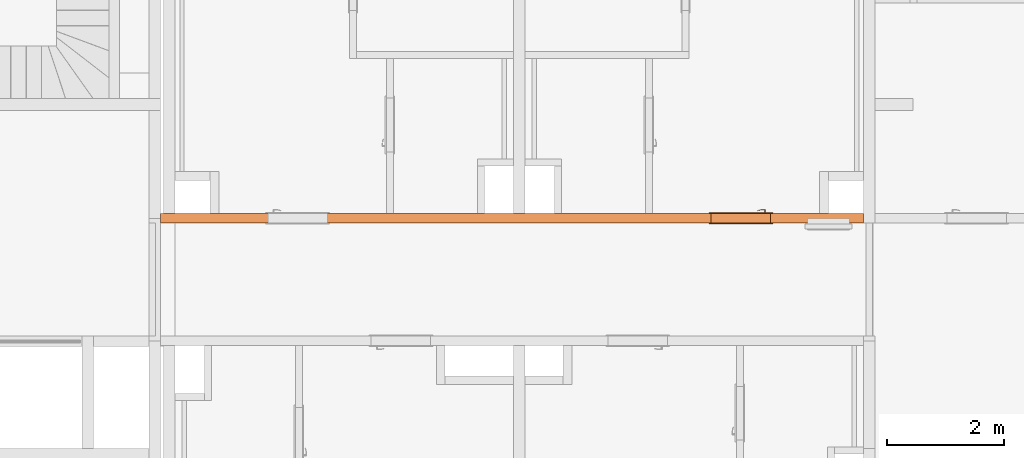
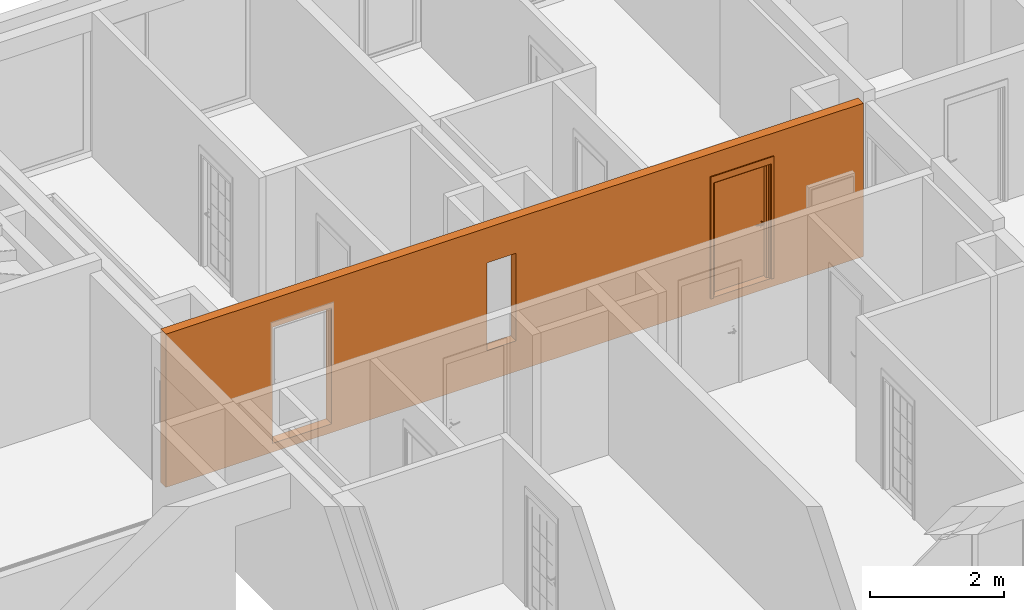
# One storey, part 19 of 61: 2 proxies, 3 openings.
"""IFC2X3 building model written with IfcOpenShell, lengths in millimetres."""

from ifc_helpers import new_model, entity, si_unit, converted_unit, derived_unit, money_unit, direction, frame, origin_with_axes, origin_2d_with_axis, place, context, subcontext, project, spatial, rectangle, extrude, open_shell, faceted_brep, surface_model, source, transform, mapped, material, type_object, element, fill, save


model = new_model("IFC2X3")

# Units and contexts
model_context = context("Model", 3, precision=0.01, world=origin_with_axes(), true_north=direction((0.34421633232, 0.938890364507)))
body_context = subcontext(model_context, "Body", "Model", "MODEL_VIEW")
ifc_project = project(units=[si_unit("LENGTHUNIT", "METRE", prefix="MILLI"), si_unit("AREAUNIT", "SQUARE_METRE"), si_unit("VOLUMEUNIT", "CUBIC_METRE"), converted_unit("PLANEANGLEUNIT", "DEGREE", entity("IfcPlaneAngleMeasure", 0.0174532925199), si_unit("PLANEANGLEUNIT", "RADIAN"), dimensions=[0, 0, 0, 0, 0, 0, 0]), si_unit("SOLIDANGLEUNIT", "STERADIAN"), money_unit("USD"), converted_unit("TIMEUNIT", "Year", entity("IfcTimeMeasure", 31556926.0), si_unit("TIMEUNIT", "SECOND"), dimensions=[0, 0, 1, 0, 0, 0, 0]), si_unit("MASSUNIT", "GRAM", prefix="KILO"), si_unit("THERMODYNAMICTEMPERATUREUNIT", "DEGREE_CELSIUS"), si_unit("LUMINOUSINTENSITYUNIT", "LUMEN"), si_unit("ENERGYUNIT", "JOULE", prefix="MEGA"), derived_unit("THERMALCONDUCTANCEUNIT", [(si_unit("POWERUNIT", "WATT"), 1), (si_unit("LENGTHUNIT", "METRE"), -1), (si_unit("THERMODYNAMICTEMPERATUREUNIT", "KELVIN"), -1)]), derived_unit("SPECIFICHEATCAPACITYUNIT", [(si_unit("ENERGYUNIT", "JOULE"), 1), (si_unit("MASSUNIT", "GRAM", prefix="KILO"), -1), (si_unit("THERMODYNAMICTEMPERATUREUNIT", "KELVIN"), -1)]), derived_unit("MASSDENSITYUNIT", [(si_unit("MASSUNIT", "GRAM", prefix="KILO"), 1), (si_unit("VOLUMEUNIT", "CUBIC_METRE"), -1)])], contexts=[model_context])

# Site, building, storey
site_placement = place(None, origin_with_axes())
site = spatial("IfcSite", under=ifc_project, at=site_placement, Name="USTRONIE MORSKIE", CompositionType="ELEMENT")
building_placement = place(site_placement, origin_with_axes())
building = spatial("IfcBuilding", under=site, at=building_placement, Name="Budynek", CompositionType="ELEMENT")
storey_placement = place(building_placement, frame((0.0, 0.0, 13000.0), z_axis=(0.0, 0.0, 1.0), x_axis=(1.0, 0.0, 0.0)))
storey = spatial("IfcBuildingStorey", under=building, at=storey_placement, Name="PIĘTRO 4", CompositionType="ELEMENT", Elevation=13000.0)

# Proxies, openings
ifc_material = material(Name="Beton konstrukcyjny B25")
building_element_proxy_type_1 = type_object("IfcBuildingElementProxyType", Name="Beton konstrukcyjny B25 160", PredefinedType="NOTDEFINED")
proxy_1_placement = place(storey_placement, frame((367067.920919, 736851.199036, -160.0), z_axis=(0.0, 0.0, 1.0), x_axis=(1.0, 0.0, 0.0)))
proxy_1 = element("IfcBuildingElementProxy", 1, at=proxy_1_placement, inside=storey, type_object=building_element_proxy_type_1, material=ifc_material, Name="SW-01", context=body_context, shape_type="Brep", body=[
    faceted_brep([(100.000137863, 80.0, 0.0), (100.000137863, 80.0, 2800.0), (5270.0, 80.0, 2800.00000171), (7230.0, 80.0, 2800.00000171), (11550.0169799, 79.9984160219, 2800.0), (12150.0, 79.9984160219, 2800.0), (12150.0, 80.0, 0.0), (100.000139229, 0.0, 0.0), (100.000139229, 0.0, 2800.0), (100.000139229, -80.0, 2800.0), (5270.0, -80.0, 2800.00000171), (7230.0, -80.0, 2800.00000171), (12150.0, -80.0, 2800.0), (12150.0, -80.0, 0.0), (100.000139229, -80.0, 0.0)], [[[0, 1, 2, 3, 4, 5, 6]], [[7, 8, 1, 0]], [[5, 4, 3, 2, 1, 8, 9, 10, 11, 12]], [[6, 5, 12, 13]], [[13, 14, 7, 0, 6]], [[14, 9, 8, 7]], [[10, 9, 14, 13, 12, 11]]]),
])
opening_1_placement = place(proxy_1_placement, frame((10049.9840947, 0.0, 160.0), z_axis=(0.0, 0.0, 1.0), x_axis=(1.0, 0.0, 0.0)))
opening_1 = element("IfcOpeningElement", 2, at=opening_1_placement, cuts=proxy_1, Name="Dw.1", context=body_context, shape_type="SweptSolid", body=[
    extrude(rectangle(XDim=1020.0, YDim=2120.0, at=origin_2d_with_axis()), frame((0.0, -160.0, 1060.0), z_axis=(0.0, -1.0, 0.0), x_axis=(-1.0, 0.0, 0.0)), (0.0, 0.0, -1.0), 480.0),
    extrude(rectangle(XDim=1094.0, YDim=2227.0, at=origin_2d_with_axis()), frame((0.0, -80.0, 1113.5), z_axis=(0.0, -1.0, 0.0), x_axis=(-1.0, 0.0, 0.0)), (0.0, 0.0, 1.0), 160.0),
    extrude(rectangle(XDim=1094.0, YDim=2227.0, at=origin_2d_with_axis()), frame((0.0, 79.9999999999, 1113.5), z_axis=(0.0, 1.0, 0.0), x_axis=(-1.0, 0.0, 0.0)), (0.0, 0.0, 1.0), 160.0),
])
opening_2_placement = place(proxy_1_placement, frame((2450.01590535, 0.0, 160.0), z_axis=(0.0, 0.0, 1.0), x_axis=(1.0, 0.0, 0.0)))
element("IfcOpeningElement", 3, at=opening_2_placement, cuts=proxy_1, Name="Dw.1", context=body_context, shape_type="SweptSolid", body=[
    extrude(rectangle(XDim=1020.0, YDim=2120.0, at=origin_2d_with_axis()), frame((0.0, -160.0, 1060.0), z_axis=(0.0, 1.0, 0.0), x_axis=(1.0, 0.0, 0.0)), (0.0, 0.0, 1.0), 480.0),
    extrude(rectangle(XDim=1094.0, YDim=2227.0, at=origin_2d_with_axis()), frame((0.0, -80.0, 1113.5), z_axis=(0.0, 1.0, 0.0), x_axis=(1.0, 0.0, 0.0)), (0.0, 0.0, -1.0), 160.0),
    extrude(rectangle(XDim=1094.0, YDim=2227.0, at=origin_2d_with_axis()), frame((0.0, 79.9999999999, 1113.5), z_axis=(0.0, -1.0, 0.0), x_axis=(1.0, 0.0, 0.0)), (0.0, 0.0, -1.0), 160.0),
])
opening_3_placement = place(proxy_1_placement, frame((5900.0, 0.0, 560.0), z_axis=(0.0, 0.0, 1.0), x_axis=(1.0, 0.0, 0.0)))
element("IfcOpeningElement", 4, at=opening_3_placement, cuts=proxy_1, Name="R.01", context=body_context, shape_type="SweptSolid", body=[
    extrude(rectangle(XDim=500.0, YDim=1600.0, at=origin_2d_with_axis()), frame((0.0, -80.0, 800.0), z_axis=(0.0, 1.0, 0.0), x_axis=(1.0, 0.0, 0.0)), (0.0, 0.0, -1.0), 160.0),
    extrude(rectangle(XDim=500.0, YDim=1600.0, at=origin_2d_with_axis()), frame((0.0, -80.0, 800.0), z_axis=(0.0, -1.0, 0.0), x_axis=(1.0, 0.0, 0.0)), (0.0, 0.0, -1.0), 160.0),
])
building_element_proxy_type_2 = type_object("IfcBuildingElementProxyType", Name="Drzwi 23", PredefinedType="NOTDEFINED")
shared_shape = source(origin_with_axes(), body_context, "Body", "SurfaceModel", [
    faceted_brep([(510.0, -115.0, 0.0), (510.0, -160.0, 0.0), (485.0, -160.0, 0.0), (485.0, -115.0, 0.0), (510.0, -115.0, 2120.0), (510.0, -160.0, 2120.0), (485.0, -160.0, 2095.0), (485.0, -115.0, 2095.0)], [[[0, 1, 2, 3]], [[4, 5, 1, 0]], [[1, 5, 6, 2]], [[3, 2, 6, 7]], [[0, 3, 7, 4]], [[7, 6, 5, 4]]]),
    faceted_brep([(-510.0, -115.0, 2120.0), (-510.0, -160.0, 2120.0), (-485.0, -160.0, 2095.0), (-485.0, -115.0, 2095.0), (-510.0, -115.0, 0.0), (-510.0, -160.0, 0.0), (-485.0, -160.0, 0.0), (-485.0, -115.0, 0.0)], [[[0, 1, 2, 3]], [[4, 5, 1, 0]], [[1, 5, 6, 2]], [[3, 2, 6, 7]], [[0, 3, 7, 4]], [[7, 6, 5, 4]]]),
    faceted_brep([(485.0, -115.0, 2095.0), (485.0, -160.0, 2095.0), (-485.0, -160.0, 2095.0), (-485.0, -115.0, 2095.0), (510.0, -115.0, 2120.0), (510.0, -160.0, 2120.0), (-510.0, -160.0, 2120.0), (-510.0, -115.0, 2120.0)], [[[0, 1, 2, 3]], [[4, 5, 1, 0]], [[1, 5, 6, 2]], [[3, 2, 6, 7]], [[0, 3, 7, 4]], [[7, 6, 5, 4]]]),
    faceted_brep([(547.0, -179.0, 0.0), (497.0, -179.0, 0.0), (497.0, -160.0, 0.0), (547.0, -160.0, 0.0), (547.0, -179.0, 2227.0), (497.0, -179.0, 2107.0), (497.0, -160.0, 2107.0), (547.0, -160.0, 2227.0)], [[[0, 1, 2, 3]], [[0, 4, 5, 1]], [[1, 5, 6, 2]], [[3, 2, 6, 7]], [[4, 0, 3, 7]], [[5, 4, 7, 6]]]),
    faceted_brep([(-547.0, -179.0, 2227.0), (-497.0, -179.0, 2107.0), (-497.0, -160.0, 2107.0), (-547.0, -160.0, 2227.0), (-547.0, -179.0, 0.0), (-497.0, -179.0, 0.0), (-497.0, -160.0, 0.0), (-547.0, -160.0, 0.0)], [[[0, 1, 2, 3]], [[0, 4, 5, 1]], [[1, 5, 6, 2]], [[3, 2, 6, 7]], [[4, 0, 3, 7]], [[5, 4, 7, 6]]]),
    faceted_brep([(547.0, -179.0, 2227.0), (497.0, -179.0, 2107.0), (497.0, -160.0, 2107.0), (547.0, -160.0, 2227.0), (-547.0, -179.0, 2227.0), (-497.0, -179.0, 2107.0), (-497.0, -160.0, 2107.0), (-547.0, -160.0, 2227.0)], [[[0, 1, 2, 3]], [[0, 4, 5, 1]], [[1, 5, 6, 2]], [[3, 2, 6, 7]], [[4, 0, 3, 7]], [[5, 4, 7, 6]]]),
    faceted_brep([(547.0, 19.0, 0.0), (547.0, 0.0, 0.0), (497.0, 0.0, 0.0), (497.0, 19.0, 0.0), (547.0, 19.0, 2227.0), (547.0, 0.0, 2227.0), (497.0, 0.0, 2107.0), (497.0, 19.0, 2107.0)], [[[0, 1, 2, 3]], [[4, 5, 1, 0]], [[1, 5, 6, 2]], [[3, 2, 6, 7]], [[0, 3, 7, 4]], [[7, 6, 5, 4]]]),
    faceted_brep([(-547.0, 19.0, 2227.0), (-547.0, 0.0, 2227.0), (-497.0, 0.0, 2107.0), (-497.0, 19.0, 2107.0), (-547.0, 19.0, 0.0), (-547.0, 0.0, 0.0), (-497.0, 0.0, 0.0), (-497.0, 19.0, 0.0)], [[[0, 1, 2, 3]], [[4, 5, 1, 0]], [[1, 5, 6, 2]], [[3, 2, 6, 7]], [[0, 3, 7, 4]], [[7, 6, 5, 4]]]),
    faceted_brep([(547.0, 19.0, 2227.0), (547.0, 0.0, 2227.0), (497.0, 0.0, 2107.0), (497.0, 19.0, 2107.0), (-547.0, 19.0, 2227.0), (-547.0, 0.0, 2227.0), (-497.0, 0.0, 2107.0), (-497.0, 19.0, 2107.0)], [[[0, 1, 2, 3]], [[4, 5, 1, 0]], [[1, 5, 6, 2]], [[3, 2, 6, 7]], [[0, 3, 7, 4]], [[7, 6, 5, 4]]]),
    faceted_brep([(450.0, -40.0, 0.0), (450.0, -115.0, 0.0), (450.0, -115.0, 2050.0), (450.0, -40.0, 2050.0), (462.0, -40.0, 0.0), (462.0, 0.0, 0.0), (510.0, 0.0, 0.0), (510.0, -115.0, 0.0), (510.0, -115.0, 2050.0), (462.0, -40.0, 2050.0), (510.0, 0.0, 2050.0), (462.0, 0.0, 2050.0)], [[[0, 1, 2, 3]], [[4, 5, 6, 7, 1, 0]], [[1, 7, 8, 2]], [[9, 3, 2, 8, 10, 11]], [[9, 4, 0, 3]], [[11, 5, 4, 9]], [[11, 10, 6, 5]], [[6, 10, 8, 7]]]),
    faceted_brep([(-462.0, -40.0, 2050.0), (-462.0, 0.0, 2050.0), (-510.0, 0.0, 2050.0), (-510.0, -115.0, 2050.0), (-450.0, -115.0, 2050.0), (-450.0, -40.0, 2050.0), (-462.0, -40.0, 0.0), (-462.0, 0.0, 0.0), (-510.0, 0.0, 0.0), (-510.0, -115.0, 0.0), (-450.0, -115.0, 0.0), (-450.0, -40.0, 0.0)], [[[0, 1, 2, 3, 4, 5]], [[0, 6, 7, 1]], [[7, 8, 2, 1]], [[2, 8, 9, 3]], [[3, 9, 10, 4]], [[5, 4, 10, 11]], [[5, 11, 6, 0]], [[6, 11, 10, 9, 8, 7]]]),
    faceted_brep([(462.0, 0.0, 2062.0), (-462.0, 0.0, 2062.0), (-462.0, 0.0, 2050.0), (-510.0, 0.0, 2050.0), (-510.0, 0.0, 2120.0), (510.0, 0.0, 2120.0), (510.0, 0.0, 2050.0), (462.0, 0.0, 2050.0), (462.0, -40.0, 2062.0), (-462.0, -40.0, 2062.0), (-462.0, -40.0, 2050.0), (-450.0, -40.0, 2050.0), (-450.0, -115.0, 2050.0), (-510.0, -115.0, 2050.0), (-510.0, -115.0, 2120.0), (510.0, -115.0, 2120.0), (510.0, -115.0, 2050.0), (462.0, -40.0, 2050.0), (450.0, -115.0, 2050.0), (450.0, -40.0, 2050.0)], [[[0, 1, 2, 3, 4, 5, 6, 7]], [[0, 8, 9, 1]], [[1, 9, 10, 2]], [[10, 11, 12, 13, 3, 2]], [[4, 3, 13, 14]], [[5, 4, 14, 15]], [[6, 5, 15, 16]], [[17, 7, 6, 16, 18, 19]], [[7, 17, 8, 0]], [[10, 9, 8, 17, 19, 11]], [[19, 18, 12, 11]], [[12, 18, 16, 15, 14, 13]]]),
    faceted_brep([(440.5, -40.0, 1060.0), (383.5, -40.0, 1060.0), (383.5, -43.0, 1060.0), (440.5, -43.0, 1060.0), (440.5, -40.0, 870.0), (383.5, -40.0, 870.0), (383.5, -43.0, 870.0), (440.5, -43.0, 870.0)], [[[0, 1, 2, 3]], [[0, 4, 5, 1]], [[1, 5, 6, 2]], [[3, 2, 6, 7]], [[4, 0, 3, 7]], [[5, 4, 7, 6]]]),
    faceted_brep([(412.0, -104.0, 990.0), (417.0, -104.0, 991.339745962), (417.0, -111.0, 991.339745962), (412.0, -111.0, 990.0), (387.0, -104.0, 990.0), (387.0, -104.0, 1010.0), (412.0, -104.0, 1010.0), (417.0, -104.0, 1008.66025404), (420.660254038, -104.0, 1005.0), (422.0, -104.0, 1000.0), (420.660254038, -104.0, 995.0), (420.660254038, -111.0, 995.0), (422.0, -111.0, 1000.0), (420.660254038, -111.0, 1005.0), (417.0, -111.0, 1008.66025404), (412.0, -111.0, 1010.0), (387.0, -111.0, 1010.0), (387.0, -111.0, 990.0)], [[[0, 1, 2, 3]], [[0, 4, 5, 6, 7, 8, 9, 10, 1]], [[1, 10, 11, 2]], [[3, 2, 11, 12, 13, 14, 15, 16, 17]], [[4, 0, 3, 17]], [[5, 4, 17, 16]], [[6, 5, 16, 15]], [[7, 6, 15, 14]], [[8, 7, 14, 13]], [[9, 8, 13, 12]], [[10, 9, 12, 11]]]),
    surface_model("IfcShellBasedSurfaceModel", [(387.0, -104.0, 1010.0), (373.901717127, -104.0, 1009.60730092), (373.596090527, -111.0, 1009.60730092), (387.0, -104.0, 990.0), (373.901717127, -104.0, 990.392699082), (346.890283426, -108.663544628, 1008.82190275), (387.0, -111.0, 1010.0), (387.0, -111.0, 990.0), (347.804837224, -101.716818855, 991.178097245), (347.804837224, -101.716818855, 1008.82190275), (346.890283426, -108.663544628, 991.178097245), (373.596090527, -111.0, 990.392699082), (322.006256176, -97.1678329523, 991.963495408), (322.006256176, -97.1678329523, 1008.03650459), (320.489735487, -104.008415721, 1008.03650459), (320.489735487, -104.008415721, 991.963495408), (296.702316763, -90.3876628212, 992.748893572), (296.702316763, -90.3876628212, 1007.25110643), (294.59537082, -97.0700416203, 1007.25110643), (294.59537082, -97.0700416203, 992.748893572), (288.829442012, -87.5221707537, 993.0), (288.829442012, -87.5221707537, 1007.0), (286.538795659, -94.1376880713, 1007.0), (286.538795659, -94.1376880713, 993.0)], [open_shell([[[0, 1, 2]], [[0, 3, 4, 1]], [[1, 5, 2]], [[0, 2, 6]], [[4, 3, 7]], [[1, 4, 8, 9]], [[1, 9, 5]], [[2, 5, 10, 11]], [[6, 2, 11, 7]], [[4, 7, 11]], [[8, 4, 11]], [[9, 8, 12, 13]], [[9, 14, 5]], [[5, 14, 15, 10]], [[8, 11, 10]], [[12, 8, 10]], [[13, 12, 16, 17]], [[9, 13, 14]], [[14, 18, 19, 15]], [[12, 10, 15]], [[16, 12, 15]], [[17, 16, 20, 21]], [[13, 17, 18]], [[13, 18, 14]], [[18, 22, 23, 19]], [[16, 15, 19]], [[20, 16, 19]], [[21, 20, 23, 22]], [[17, 21, 22]], [[17, 22, 18]], [[20, 19, 23]]])]),
    faceted_brep([(401.607695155, -53.0, 994.0), (400.0, -53.0, 1000.0), (399.0, -43.0, 1000.0), (400.741669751, -43.0, 993.5), (406.0, -53.0, 989.607695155), (412.0, -53.0, 988.0), (418.0, -53.0, 989.607695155), (422.392304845, -53.0, 994.0), (424.0, -53.0, 1000.0), (422.392304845, -53.0, 1006.0), (418.0, -53.0, 1010.39230485), (412.0, -53.0, 1012.0), (406.0, -53.0, 1010.39230485), (401.607695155, -53.0, 1006.0), (400.741669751, -43.0, 1006.5), (405.5, -43.0, 1011.25833025), (412.0, -43.0, 1013.0), (418.5, -43.0, 1011.25833025), (423.258330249, -43.0, 1006.5), (425.0, -43.0, 1000.0), (423.258330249, -43.0, 993.5), (418.5, -43.0, 988.741669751), (412.0, -43.0, 987.0), (405.5, -43.0, 988.741669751)], [[[0, 1, 2, 3]], [[1, 0, 4, 5, 6, 7, 8, 9, 10, 11, 12, 13]], [[1, 13, 14, 2]], [[2, 14, 15, 16, 17, 18, 19, 20, 21, 22, 23, 3]], [[4, 0, 3, 23]], [[5, 4, 23, 22]], [[6, 5, 22, 21]], [[7, 6, 21, 20]], [[8, 7, 20, 19]], [[9, 8, 19, 18]], [[10, 9, 18, 17]], [[11, 10, 17, 16]], [[12, 11, 16, 15]], [[13, 12, 15, 14]]]),
    faceted_brep([(394.679491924, -47.0, 895.0), (392.0, -47.0, 905.0), (390.0, -43.0, 905.0), (392.947441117, -43.0, 894.0), (402.0, -47.0, 887.679491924), (412.0, -47.0, 885.0), (422.0, -47.0, 887.679491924), (429.320508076, -47.0, 895.0), (432.0, -47.0, 905.0), (429.320508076, -47.0, 915.0), (422.0, -47.0, 922.320508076), (412.0, -47.0, 925.0), (402.0, -47.0, 922.320508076), (394.679491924, -47.0, 915.0), (392.947441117, -43.0, 916.0), (401.0, -43.0, 924.052558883), (412.0, -43.0, 927.0), (423.0, -43.0, 924.052558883), (431.052558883, -43.0, 916.0), (434.0, -43.0, 905.0), (431.052558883, -43.0, 894.0), (423.0, -43.0, 885.947441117), (412.0, -43.0, 883.0), (401.0, -43.0, 885.947441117)], [[[0, 1, 2, 3]], [[1, 0, 4, 5, 6, 7, 8, 9, 10, 11, 12, 13]], [[1, 13, 14, 2]], [[2, 14, 15, 16, 17, 18, 19, 20, 21, 22, 23, 3]], [[4, 0, 3, 23]], [[5, 4, 23, 22]], [[6, 5, 22, 21]], [[7, 6, 21, 20]], [[8, 7, 20, 19]], [[9, 8, 19, 18]], [[10, 9, 18, 17]], [[11, 10, 17, 16]], [[12, 11, 16, 15]], [[13, 12, 15, 14]]]),
    faceted_brep([(407.050252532, -49.0, 909.050252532), (405.0, -49.0, 914.0), (404.0, -47.0, 914.0), (406.343145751, -47.0, 908.343145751), (412.0, -49.0, 907.0), (416.949747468, -49.0, 909.050252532), (419.0, -49.0, 914.0), (416.949747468, -49.0, 918.949747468), (412.0, -49.0, 921.0), (407.050252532, -49.0, 918.949747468), (406.343145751, -47.0, 919.656854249), (412.0, -47.0, 922.0), (417.656854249, -47.0, 919.656854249), (420.0, -47.0, 914.0), (417.656854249, -47.0, 908.343145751), (412.0, -47.0, 906.0)], [[[0, 1, 2, 3]], [[1, 0, 4, 5, 6, 7, 8, 9]], [[1, 9, 10, 2]], [[2, 10, 11, 12, 13, 14, 15, 3]], [[4, 0, 3, 15]], [[5, 4, 15, 14]], [[6, 5, 14, 13]], [[7, 6, 13, 12]], [[8, 7, 12, 11]], [[9, 8, 11, 10]]]),
    faceted_brep([(412.0, -53.0, 1010.0), (407.0, -53.0, 1008.66025404), (407.0, -104.0, 1008.66025404), (412.0, -104.0, 1010.0), (417.0, -53.0, 1008.66025404), (420.660254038, -53.0, 1005.0), (422.0, -53.0, 1000.0), (420.660254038, -53.0, 995.0), (417.0, -53.0, 991.339745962), (412.0, -53.0, 990.0), (407.0, -53.0, 991.339745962), (403.339745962, -53.0, 995.0), (402.0, -53.0, 1000.0), (403.339745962, -53.0, 1005.0), (403.339745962, -104.0, 1005.0), (402.0, -104.0, 1000.0), (403.339745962, -104.0, 995.0), (407.0, -104.0, 991.339745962), (412.0, -104.0, 990.0), (417.0, -104.0, 991.339745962), (420.660254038, -104.0, 995.0), (422.0, -104.0, 1000.0), (420.660254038, -104.0, 1005.0), (417.0, -104.0, 1008.66025404)], [[[0, 1, 2, 3]], [[0, 4, 5, 6, 7, 8, 9, 10, 11, 12, 13, 1]], [[1, 13, 14, 2]], [[3, 2, 14, 15, 16, 17, 18, 19, 20, 21, 22, 23]], [[4, 0, 3, 23]], [[5, 4, 23, 22]], [[6, 5, 22, 21]], [[7, 6, 21, 20]], [[8, 7, 20, 19]], [[9, 8, 19, 18]], [[10, 9, 18, 17]], [[11, 10, 17, 16]], [[12, 11, 16, 15]], [[13, 12, 15, 14]]]),
    faceted_brep([(440.5, 0.0, 1060.0), (440.5, 3.0, 1060.0), (383.5, 3.0, 1060.0), (383.5, 0.0, 1060.0), (440.5, 0.0, 870.0), (440.5, 3.0, 870.0), (383.5, 3.0, 870.0), (383.5, 0.0, 870.0)], [[[0, 1, 2, 3]], [[4, 5, 1, 0]], [[1, 5, 6, 2]], [[3, 2, 6, 7]], [[0, 3, 7, 4]], [[7, 6, 5, 4]]]),
    faceted_brep([(412.0, 64.0, 990.0), (412.0, 71.0, 990.0), (417.0, 71.0, 991.339745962), (417.0, 64.0, 991.339745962), (387.0, 64.0, 990.0), (387.0, 71.0, 990.0), (387.0, 71.0, 1010.0), (412.0, 71.0, 1010.0), (417.0, 71.0, 1008.66025404), (420.660254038, 71.0, 1005.0), (422.0, 71.0, 1000.0), (420.660254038, 71.0, 995.0), (420.660254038, 64.0, 995.0), (422.0, 64.0, 1000.0), (420.660254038, 64.0, 1005.0), (417.0, 64.0, 1008.66025404), (412.0, 64.0, 1010.0), (387.0, 64.0, 1010.0)], [[[0, 1, 2, 3]], [[4, 5, 1, 0]], [[1, 5, 6, 7, 8, 9, 10, 11, 2]], [[3, 2, 11, 12]], [[0, 3, 12, 13, 14, 15, 16, 17, 4]], [[17, 6, 5, 4]], [[16, 7, 6, 17]], [[15, 8, 7, 16]], [[14, 9, 8, 15]], [[13, 10, 9, 14]], [[12, 11, 10, 13]]]),
    surface_model("IfcShellBasedSurfaceModel", [(387.0, 64.0, 1010.0), (373.596090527, 71.0, 1009.60730092), (373.901717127, 64.0, 1009.60730092), (387.0, 71.0, 1010.0), (346.890283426, 68.6635446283, 1008.82190275), (373.901717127, 64.0, 990.392699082), (387.0, 64.0, 990.0), (387.0, 71.0, 990.0), (373.596090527, 71.0, 990.392699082), (346.890283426, 68.6635446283, 991.178097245), (347.804837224, 61.716818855, 1008.82190275), (347.804837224, 61.716818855, 991.178097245), (320.489735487, 64.0084157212, 991.963495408), (320.489735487, 64.0084157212, 1008.03650459), (322.006256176, 57.1678329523, 1008.03650459), (322.006256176, 57.1678329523, 991.963495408), (294.59537082, 57.0700416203, 992.748893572), (294.59537082, 57.0700416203, 1007.25110643), (296.702316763, 50.3876628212, 1007.25110643), (296.702316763, 50.3876628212, 992.748893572), (286.538795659, 54.1376880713, 993.0), (286.538795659, 54.1376880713, 1007.0), (288.829442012, 47.5221707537, 1007.0), (288.829442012, 47.5221707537, 993.0)], [open_shell([[[0, 1, 2]], [[0, 3, 1]], [[2, 1, 4]], [[0, 2, 5, 6]], [[3, 7, 8, 1]], [[1, 8, 9, 4]], [[2, 4, 10]], [[2, 10, 11, 5]], [[5, 7, 6]], [[5, 8, 7]], [[11, 9, 8]], [[4, 9, 12, 13]], [[10, 4, 13]], [[10, 14, 15, 11]], [[11, 8, 5]], [[15, 9, 11]], [[15, 12, 9]], [[13, 12, 16, 17]], [[10, 13, 14]], [[14, 18, 19, 15]], [[19, 12, 15]], [[19, 16, 12]], [[17, 16, 20, 21]], [[14, 13, 17]], [[14, 17, 18]], [[18, 22, 23, 19]], [[23, 16, 19]], [[23, 20, 16]], [[22, 21, 20, 23]], [[18, 17, 21]], [[18, 21, 22]]])]),
    faceted_brep([(401.607695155, 13.0, 994.0), (400.741669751, 3.0, 993.5), (399.0, 3.0, 1000.0), (400.0, 13.0, 1000.0), (406.0, 13.0, 989.607695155), (405.5, 3.0, 988.741669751), (412.0, 3.0, 987.0), (418.5, 3.0, 988.741669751), (423.258330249, 3.0, 993.5), (425.0, 3.0, 1000.0), (423.258330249, 3.0, 1006.5), (418.5, 3.0, 1011.25833025), (412.0, 3.0, 1013.0), (405.5, 3.0, 1011.25833025), (400.741669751, 3.0, 1006.5), (401.607695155, 13.0, 1006.0), (406.0, 13.0, 1010.39230485), (412.0, 13.0, 1012.0), (418.0, 13.0, 1010.39230485), (422.392304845, 13.0, 1006.0), (424.0, 13.0, 1000.0), (422.392304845, 13.0, 994.0), (418.0, 13.0, 989.607695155), (412.0, 13.0, 988.0)], [[[0, 1, 2, 3]], [[4, 5, 1, 0]], [[2, 1, 5, 6, 7, 8, 9, 10, 11, 12, 13, 14]], [[3, 2, 14, 15]], [[3, 15, 16, 17, 18, 19, 20, 21, 22, 23, 4, 0]], [[23, 6, 5, 4]], [[22, 7, 6, 23]], [[21, 8, 7, 22]], [[20, 9, 8, 21]], [[19, 10, 9, 20]], [[18, 11, 10, 19]], [[17, 12, 11, 18]], [[16, 13, 12, 17]], [[15, 14, 13, 16]]]),
    faceted_brep([(394.679491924, 7.0, 895.0), (392.947441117, 3.0, 894.0), (390.0, 3.0, 905.0), (392.0, 7.0, 905.0), (402.0, 7.0, 887.679491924), (401.0, 3.0, 885.947441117), (412.0, 3.0, 883.0), (423.0, 3.0, 885.947441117), (431.052558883, 3.0, 894.0), (434.0, 3.0, 905.0), (431.052558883, 3.0, 916.0), (423.0, 3.0, 924.052558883), (412.0, 3.0, 927.0), (401.0, 3.0, 924.052558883), (392.947441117, 3.0, 916.0), (394.679491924, 7.0, 915.0), (402.0, 7.0, 922.320508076), (412.0, 7.0, 925.0), (422.0, 7.0, 922.320508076), (429.320508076, 7.0, 915.0), (432.0, 7.0, 905.0), (429.320508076, 7.0, 895.0), (422.0, 7.0, 887.679491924), (412.0, 7.0, 885.0)], [[[0, 1, 2, 3]], [[4, 5, 1, 0]], [[2, 1, 5, 6, 7, 8, 9, 10, 11, 12, 13, 14]], [[3, 2, 14, 15]], [[3, 15, 16, 17, 18, 19, 20, 21, 22, 23, 4, 0]], [[23, 6, 5, 4]], [[22, 7, 6, 23]], [[21, 8, 7, 22]], [[20, 9, 8, 21]], [[19, 10, 9, 20]], [[18, 11, 10, 19]], [[17, 12, 11, 18]], [[16, 13, 12, 17]], [[15, 14, 13, 16]]]),
    faceted_brep([(407.050252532, 9.0, 909.050252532), (406.343145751, 7.0, 908.343145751), (404.0, 7.0, 914.0), (405.0, 9.0, 914.0), (412.0, 9.0, 907.0), (412.0, 7.0, 906.0), (417.656854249, 7.0, 908.343145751), (420.0, 7.0, 914.0), (417.656854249, 7.0, 919.656854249), (412.0, 7.0, 922.0), (406.343145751, 7.0, 919.656854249), (407.050252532, 9.0, 918.949747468), (412.0, 9.0, 921.0), (416.949747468, 9.0, 918.949747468), (419.0, 9.0, 914.0), (416.949747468, 9.0, 909.050252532)], [[[0, 1, 2, 3]], [[4, 5, 1, 0]], [[2, 1, 5, 6, 7, 8, 9, 10]], [[3, 2, 10, 11]], [[3, 11, 12, 13, 14, 15, 4, 0]], [[15, 6, 5, 4]], [[14, 7, 6, 15]], [[13, 8, 7, 14]], [[12, 9, 8, 13]], [[11, 10, 9, 12]]]),
    faceted_brep([(412.0, 13.0, 1010.0), (412.0, 64.0, 1010.0), (407.0, 64.0, 1008.66025404), (407.0, 13.0, 1008.66025404), (417.0, 13.0, 1008.66025404), (417.0, 64.0, 1008.66025404), (420.660254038, 64.0, 1005.0), (422.0, 64.0, 1000.0), (420.660254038, 64.0, 995.0), (417.0, 64.0, 991.339745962), (412.0, 64.0, 990.0), (407.0, 64.0, 991.339745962), (403.339745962, 64.0, 995.0), (402.0, 64.0, 1000.0), (403.339745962, 64.0, 1005.0), (403.339745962, 13.0, 1005.0), (402.0, 13.0, 1000.0), (403.339745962, 13.0, 995.0), (407.0, 13.0, 991.339745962), (412.0, 13.0, 990.0), (417.0, 13.0, 991.339745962), (420.660254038, 13.0, 995.0), (422.0, 13.0, 1000.0), (420.660254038, 13.0, 1005.0)], [[[0, 1, 2, 3]], [[4, 5, 1, 0]], [[1, 5, 6, 7, 8, 9, 10, 11, 12, 13, 14, 2]], [[3, 2, 14, 15]], [[0, 3, 15, 16, 17, 18, 19, 20, 21, 22, 23, 4]], [[23, 6, 5, 4]], [[22, 7, 6, 23]], [[21, 8, 7, 22]], [[20, 9, 8, 21]], [[19, 10, 9, 20]], [[18, 11, 10, 19]], [[17, 12, 11, 18]], [[16, 13, 12, 17]], [[15, 14, 13, 16]]]),
    faceted_brep([(-462.0, 0.0, 0.0), (462.0, 0.0, 0.0), (462.0, -40.0, 0.0), (-462.0, -40.0, 0.0), (-462.0, 0.0, 2062.0), (462.0, 0.0, 2062.0), (462.0, -40.0, 2062.0), (-462.0, -40.0, 2062.0)], [[[0, 1, 2, 3]], [[0, 4, 5, 1]], [[1, 5, 6, 2]], [[3, 2, 6, 7]], [[4, 0, 3, 7]], [[5, 4, 7, 6]]]),
])
proxy_2_placement = place(opening_1_placement, frame((-450.0, 0.0, 0.0), z_axis=(0.0, 0.0, 1.0), x_axis=(1.0, 0.0, 0.0)))
proxy_2 = element("IfcBuildingElementProxy", 5, at=proxy_2_placement, inside=storey, type_object=building_element_proxy_type_2, Name="Dw.1", context=body_context, shape_type="MappedRepresentation", body=[
    mapped(shared_shape, transform((450.0, 79.9999999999, 0.0))),
])
fill(opening_1, proxy_2)

save(model, "model.ifc")
